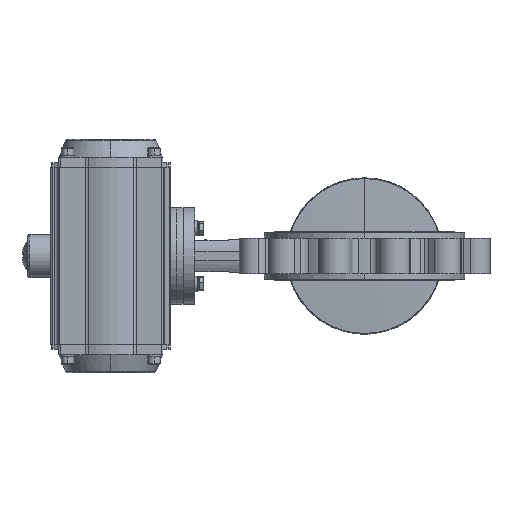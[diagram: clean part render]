
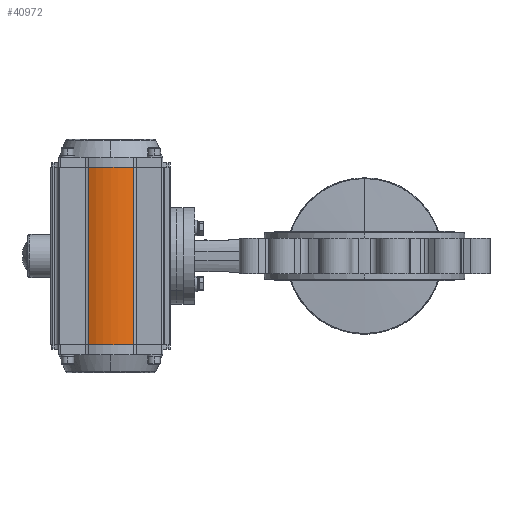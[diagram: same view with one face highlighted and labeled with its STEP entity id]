
A CAD part, left-side view. The second image highlights one B-rep face of the part: STEP entity #40972.
In plain terms, the highlighted cylindrical face has radius 67.5 mm (diameter 135 mm), a partial arc.
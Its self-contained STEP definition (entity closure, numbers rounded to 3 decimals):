
#1074 = DIRECTION ( 'NONE',  ( 0., 0., 1. ) ) ;
#4118 = DIRECTION ( 'NONE',  ( 1., 0., 0. ) ) ;
#4481 = AXIS2_PLACEMENT_3D ( 'NONE', #9972, #14485, #4118 ) ;
#8635 = VERTEX_POINT ( 'NONE', #10903 ) ;
#9972 = CARTESIAN_POINT ( 'NONE',  ( 0., 328.5, 115. ) ) ;
#10903 = CARTESIAN_POINT ( 'NONE',  ( -60.968, 299.531, 115. ) ) ;
#14485 = DIRECTION ( 'NONE',  ( 0., 0., 1. ) ) ;
#15464 = CARTESIAN_POINT ( 'NONE',  ( -60.968, 357.469, 115. ) ) ;
#16162 = CARTESIAN_POINT ( 'NONE',  ( -60.968, 299.531, -115. ) ) ;
#16817 = CIRCLE ( 'NONE', #20148, 67.5 ) ;
#19626 = LINE ( 'NONE', #40271, #28123 ) ;
#20148 = AXIS2_PLACEMENT_3D ( 'NONE', #32111, #1074, #42428 ) ;
#20362 = DIRECTION ( 'NONE',  ( 1., 0., 0. ) ) ;
#21250 = CARTESIAN_POINT ( 'NONE',  ( -60.968, 357.469, -115. ) ) ;
#23035 = EDGE_CURVE ( 'NONE', #60475, #46761, #16817, .T. ) ;
#26455 = EDGE_CURVE ( 'NONE', #46761, #8635, #62172, .T. ) ;
#28123 = VECTOR ( 'NONE', #52030, 1000. ) ;
#30790 = CARTESIAN_POINT ( 'NONE',  ( -60.968, 299.531, -414.828 ) ) ;
#32111 = CARTESIAN_POINT ( 'NONE',  ( 0., 328.5, -115. ) ) ;
#32872 = ORIENTED_EDGE ( 'NONE', *, *, #26455, .T. ) ;
#34008 = EDGE_LOOP ( 'NONE', ( #54941, #63975, #41850, #32872 ) ) ;
#34157 = CIRCLE ( 'NONE', #4481, 67.5 ) ;
#35148 = FACE_OUTER_BOUND ( 'NONE', #34008, .T. ) ;
#35934 = DIRECTION ( 'NONE',  ( 0., 0., 1. ) ) ;
#40271 = CARTESIAN_POINT ( 'NONE',  ( -60.968, 357.469, -115. ) ) ;
#40972 = ADVANCED_FACE ( 'NONE', ( #35148 ), #51049, .T. ) ;
#41850 = ORIENTED_EDGE ( 'NONE', *, *, #23035, .T. ) ;
#42044 = VERTEX_POINT ( 'NONE', #15464 ) ;
#42428 = DIRECTION ( 'NONE',  ( 1., 0., 0. ) ) ;
#43998 = AXIS2_PLACEMENT_3D ( 'NONE', #46192, #45495, #20362 ) ;
#44570 = VECTOR ( 'NONE', #35934, 1000. ) ;
#45495 = DIRECTION ( 'NONE',  ( 0., 0., 1. ) ) ;
#46192 = CARTESIAN_POINT ( 'NONE',  ( 0., 328.5, -115. ) ) ;
#46761 = VERTEX_POINT ( 'NONE', #16162 ) ;
#51049 = CYLINDRICAL_SURFACE ( 'NONE', #43998, 67.5 ) ;
#52030 = DIRECTION ( 'NONE',  ( 0., 0., -1. ) ) ;
#54426 = EDGE_CURVE ( 'NONE', #42044, #8635, #34157, .T. ) ;
#54941 = ORIENTED_EDGE ( 'NONE', *, *, #54426, .F. ) ;
#60475 = VERTEX_POINT ( 'NONE', #21250 ) ;
#62172 = LINE ( 'NONE', #30790, #44570 ) ;
#63975 = ORIENTED_EDGE ( 'NONE', *, *, #66210, .T. ) ;
#66210 = EDGE_CURVE ( 'NONE', #42044, #60475, #19626, .T. ) ;
